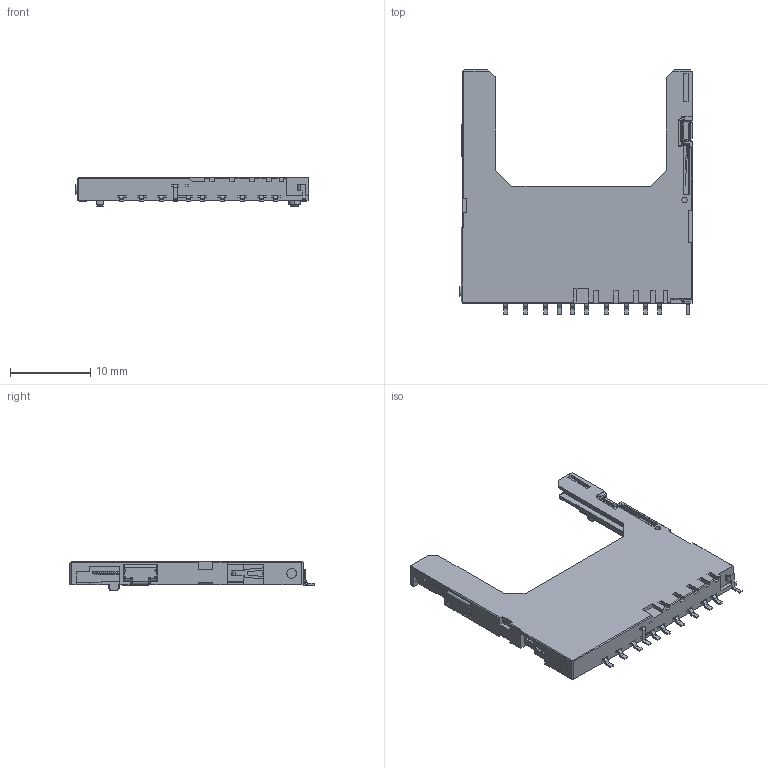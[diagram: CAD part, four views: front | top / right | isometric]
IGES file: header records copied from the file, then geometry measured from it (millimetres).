
Start section: START RECORD GO HERE.
Global section: file name: 10_5638_009_511_xxx.igs; native system: DASSAULT SYSTEMES CATIA V5 R19 - www.3ds.com; preprocessor: CATIA Version 5 Release 19 SP 8 ; author: User; organization: CATIA11; date: 20110601.161909; units: millimetre
Bounding box: 28.88 x 30.4 x 3.55 mm (x, y, z)
Volume: 693.4 mm3; surface area: 1922.8 mm2
Topology: 1 solids, 4 shells, 748 faces, 2181 edges, 1450 vertices
Faces by surface type: plane 587, revolution 145, bspline 15, extrusion 1
